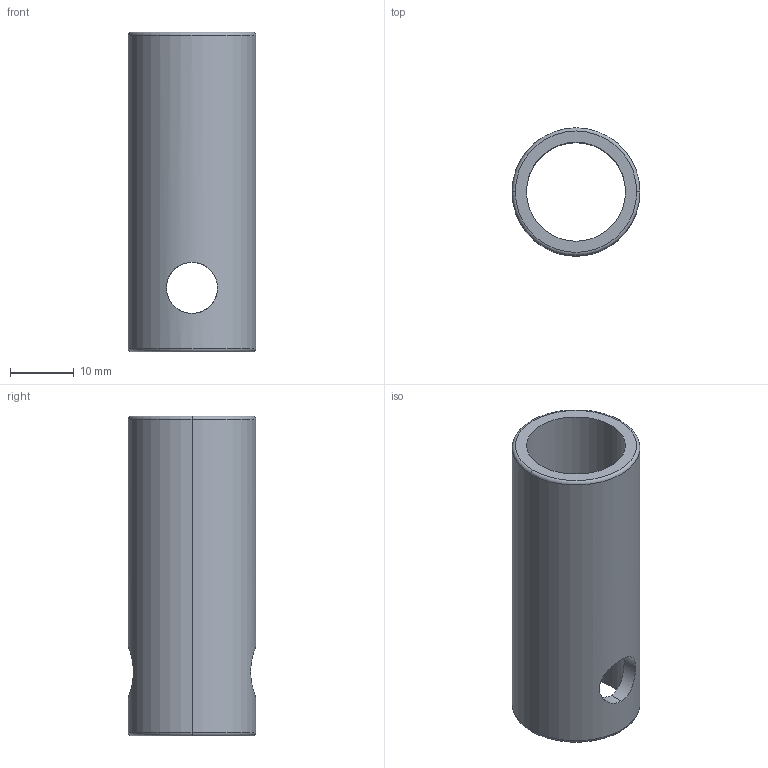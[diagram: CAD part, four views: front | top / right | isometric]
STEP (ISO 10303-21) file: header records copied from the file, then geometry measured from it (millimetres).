
FILE_DESCRIPTION (( 'STEP AP214' ), '1' );
FILE_NAME ('SMBY20-50.STEP', '2023-01-05T09:28:51', ( 'Windows User' ), ( 'P R C' ), 'SwSTEP 2.0', 'SolidWorks 2018', '' );
FILE_SCHEMA (( 'AUTOMOTIVE_DESIGN' ));
Length unit declared in the file: millimetre
Products named in the file (1): SMBY20-50
Bounding box: 20 x 20 x 50 mm (x, y, z)
Volume: 6034.1 mm3; surface area: 5712.9 mm2
Topology: 1 solids, 1 shells, 14 faces, 32 edges, 20 vertices
Faces by surface type: cylinder 8, torus 4, plane 2
Entity records: 720 total; most frequent: CARTESIAN_POINT 335, DIRECTION 70, ORIENTED_EDGE 64, EDGE_CURVE 32, AXIS2_PLACEMENT_3D 31, EDGE_LOOP 20, VERTEX_POINT 20, CIRCLE 16
